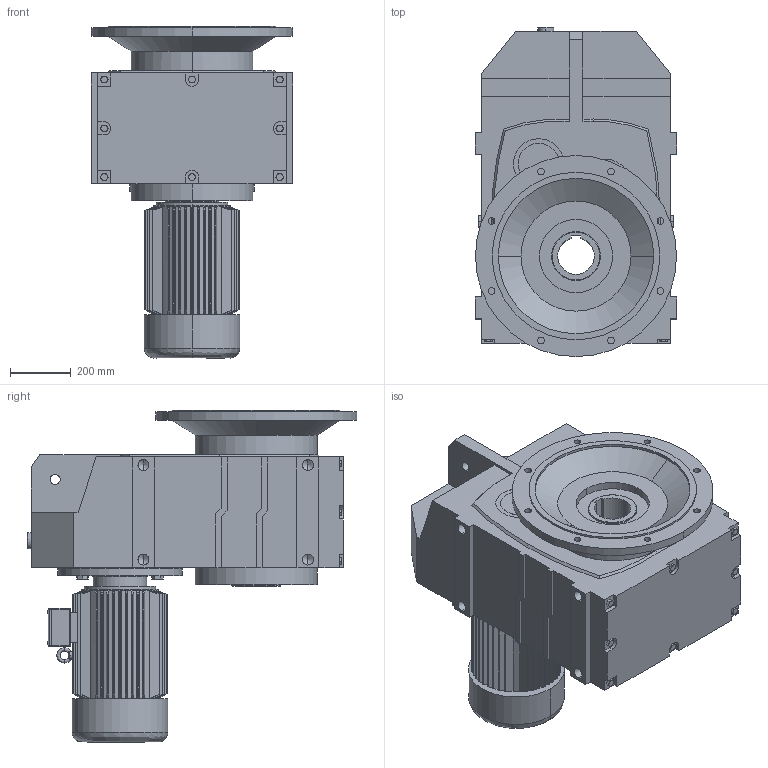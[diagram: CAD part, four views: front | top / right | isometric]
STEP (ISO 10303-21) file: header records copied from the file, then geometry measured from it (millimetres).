
FILE_DESCRIPTION (( 'STEP AP214' ), '1' );
FILE_NAME ('MFL157.step', '2020-06-27T08:24:34', ( '' ), ( '' ), 'SwSTEP 2.0', 'SolidWorks 2016', '' );
FILE_SCHEMA (( 'AUTOMOTIVE_DESIGN' ));
Length unit declared in the file: millimetre
Products named in the file (1): MFL157
Bounding box: 660 x 1081.29 x 1090 mm (x, y, z)
Volume: 270126891.9 mm3; surface area: 5120197.2 mm2
Topology: 3 solids, 3 shells, 1020 faces, 2594 edges, 1632 vertices
Faces by surface type: plane 530, cone 208, cylinder 173, bspline 109
Entity records: 44739 total; most frequent: CARTESIAN_POINT 10062, ORIENTED_EDGE 5140, DIRECTION 4385, EDGE_CURVE 2570, VERTEX_POINT 1632, AXIS2_PLACEMENT_3D 1511, LINE 1363, VECTOR 1363
